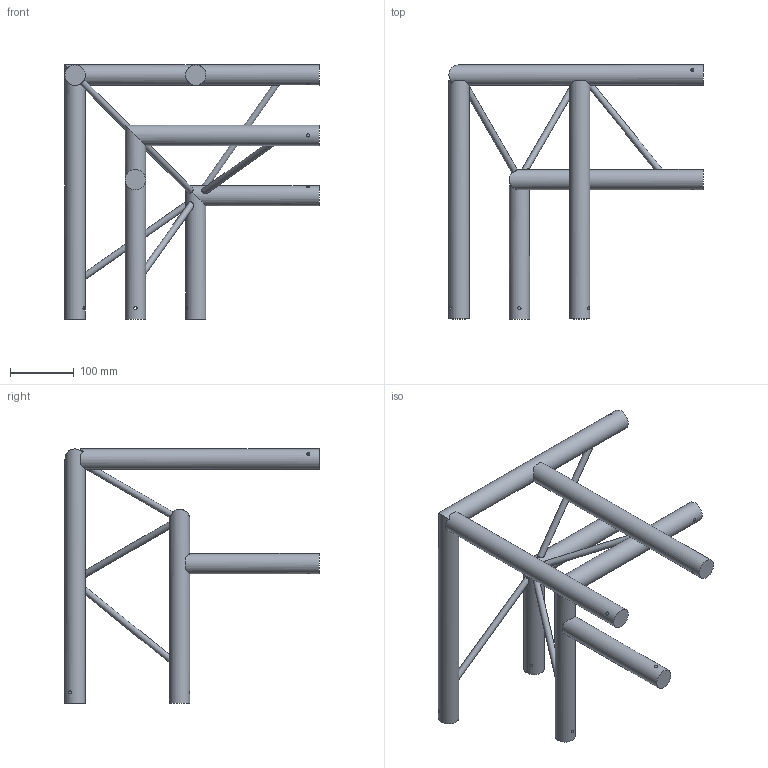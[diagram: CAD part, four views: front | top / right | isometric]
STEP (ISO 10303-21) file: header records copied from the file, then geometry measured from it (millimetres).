
FILE_DESCRIPTION(/* description */ (''),/* implementation_level */ '2;1');
FILE_NAME(/* name */ 'M:\Symbolen_NIEUW\STP\Corners\E20D\E20D-C013_260031857.stp',/* time_stamp */ '2017-11-16T15:15:36+01:00',/* author */ ('Kees'),/* organization */ (''),/* preprocessor_version */ 'ST-DEVELOPER v16.13',/* originating_system */ 'Autodesk Inventor 2018',/* authorisation */ '');
FILE_SCHEMA (('AUTOMOTIVE_DESIGN { 1 0 10303 214 3 1 1 }'));
Length unit declared in the file: millimetre
Products named in the file (1): 260031857
Bounding box: 400 x 400 x 400 mm (x, y, z)
Volume: 2239566.1 mm3; surface area: 317061.9 mm2
Topology: 6 solids, 6 shells, 76 faces, 183 edges, 123 vertices
Faces by surface type: cylinder 39, plane 37
Full cylindrical faces by diameter (mm): 5 x9, 10 x6, 32 x9
Entity records: 3061 total; most frequent: CARTESIAN_POINT 1088, ORIENTED_EDGE 344, DIRECTION 330, VERTEX_POINT 172, EDGE_CURVE 172, EDGE_LOOP 146, AXIS2_PLACEMENT_3D 135, FACE_BOUND 83
